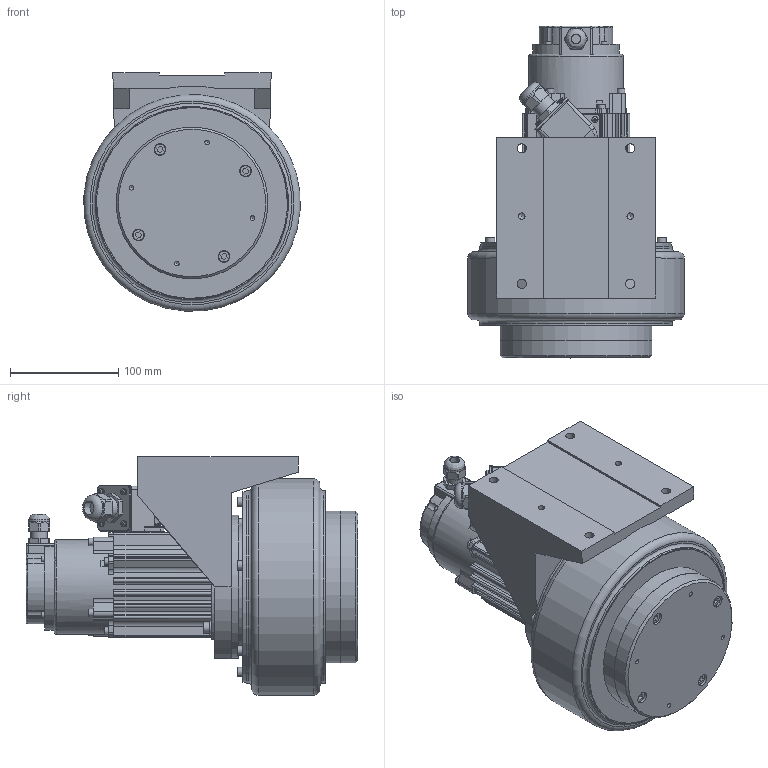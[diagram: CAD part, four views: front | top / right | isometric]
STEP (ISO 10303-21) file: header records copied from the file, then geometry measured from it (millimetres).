
FILE_DESCRIPTION(('STEP AP203'),'1');
FILE_NAME('AWRII040B-P.stp','2024-08-20T01:54:20',(' '),(' '),'Spatial InterOp 3D',' ',' ');
FILE_SCHEMA(('CONFIG_CONTROL_DESIGN'));
Length unit declared in the file: millimetre
Products named in the file (1): AWRII040B-P
Bounding box: 199.49 x 306 x 219.74 mm (x, y, z)
Volume: 4602426.7 mm3; surface area: 352891.8 mm2
Topology: 1 solids, 41 shells, 1025 faces, 2517 edges, 1656 vertices
Faces by surface type: plane 608, cylinder 309, cone 75, torus 18, sphere 8, bspline 7
Full cylindrical faces by diameter (mm): 2.5 x12, 3 x11, 3.3 x9, 3.4 x4, 3.5 x13, 4 x4, 4.2 x4, 4.5 x4, 5 x8, 5.5 x4, 5.6 x7, 6 x6, 6.4 x4, 6.6 x4, 7 x8, 8 x4, 8.5 x11, 10 x8, 11 x4, 12 x4, 12.5 x1, 14.95 x1, 15.2 x1, 19 x1, 20.4 x2, 21 x2, 24 x1, 28 x1, 36 x1, 87.5 x1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
Entity records: 29463 total; most frequent: CARTESIAN_POINT 6203, DIRECTION 4922, ORIENTED_EDGE 4360, EDGE_CURVE 2180, AXIS2_PLACEMENT_3D 1859, VERTEX_POINT 1560, EDGE_LOOP 1363, LINE 1204
